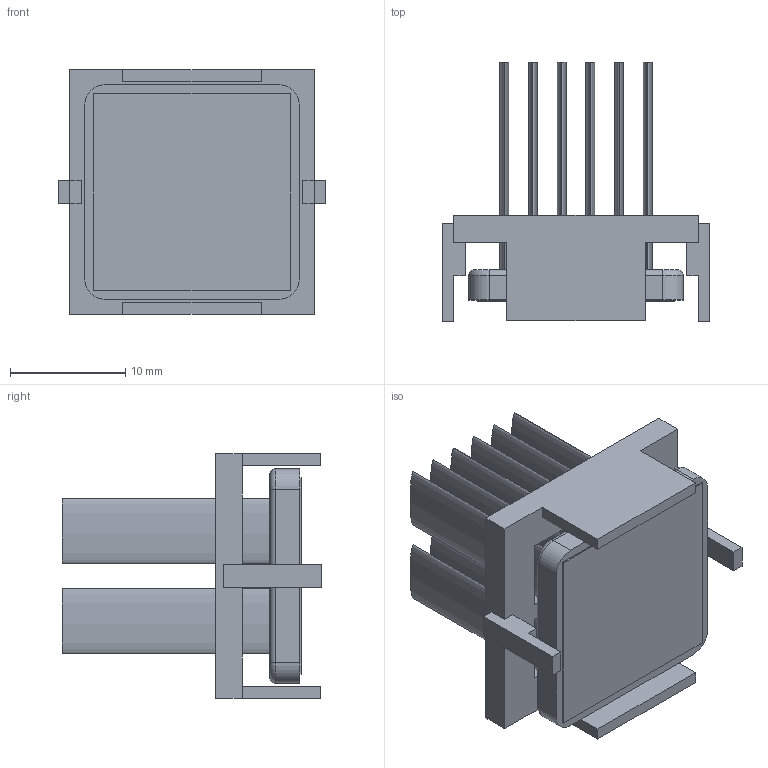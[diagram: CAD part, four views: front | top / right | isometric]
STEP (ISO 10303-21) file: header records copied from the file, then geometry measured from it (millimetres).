
FILE_DESCRIPTION (( 'STEP AP214' ), '1' );
FILE_NAME ('INM19001-21W-2.6BU.STEP', '2023-03-02T18:19:14', ( '' ), ( '' ), 'SwSTEP 2.0', 'SolidWorks 2020', '' );
FILE_SCHEMA (( 'AUTOMOTIVE_DESIGN' ));
Length unit declared in the file: millimetre
Products named in the file (1): INM19001-21W-2.6BU
Bounding box: 23.2 x 22.5 x 21.2 mm (x, y, z)
Volume: 2495.4 mm3; surface area: 5344.9 mm2
Topology: 3 solids, 3 shells, 106 faces, 256 edges, 168 vertices
Faces by surface type: plane 70, bspline 24, cylinder 8, torus 4
Entity records: 4330 total; most frequent: CARTESIAN_POINT 843, ORIENTED_EDGE 512, DIRECTION 394, EDGE_CURVE 256, VECTOR 188, LINE 188, VERTEX_POINT 168, EDGE_LOOP 120
